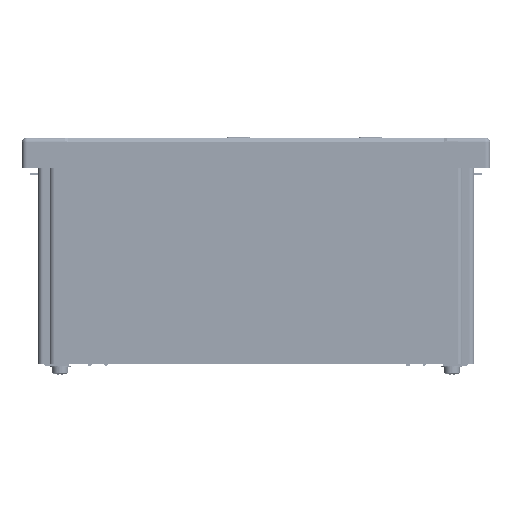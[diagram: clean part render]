
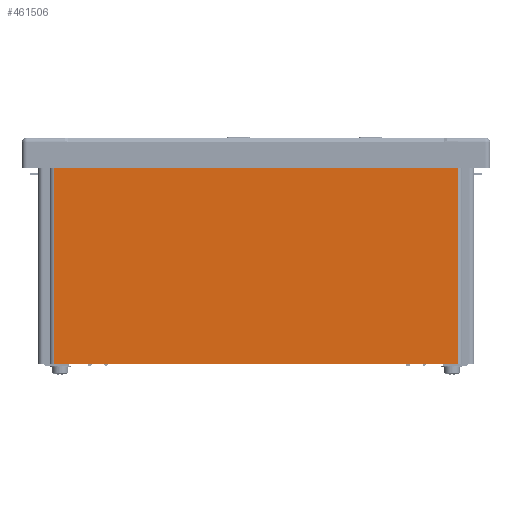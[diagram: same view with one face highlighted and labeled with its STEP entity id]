
A CAD part, left-side view. The second image highlights one B-rep face of the part: STEP entity #461506.
In plain terms, the highlighted planar face has unit normal (-1, 0, 0).
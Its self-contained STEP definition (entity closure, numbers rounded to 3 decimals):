
#6509 = CARTESIAN_POINT ( 'NONE',  ( -1902.227, 15.349, -316.035 ) ) ;
#11452 = DIRECTION ( 'NONE',  ( 0., 0., 1. ) ) ;
#13718 = EDGE_LOOP ( 'NONE', ( #355806, #453056, #322916, #193118 ) ) ;
#15104 = VECTOR ( 'NONE', #254033, 1000. ) ;
#20806 = CARTESIAN_POINT ( 'NONE',  ( -1902.227, -158.651, -143.744 ) ) ;
#22551 = VERTEX_POINT ( 'NONE', #324687 ) ;
#34629 = DIRECTION ( 'NONE',  ( 0., 0., -1. ) ) ;
#58878 = VERTEX_POINT ( 'NONE', #20806 ) ;
#71345 = EDGE_CURVE ( 'NONE', #22551, #58878, #328076, .T. ) ;
#122574 = PLANE ( 'NONE',  #333816 ) ;
#143991 = CARTESIAN_POINT ( 'NONE',  ( -1902.227, -71.651, -143.744 ) ) ;
#162892 = LINE ( 'NONE', #293745, #344921 ) ;
#178628 = EDGE_CURVE ( 'NONE', #456418, #58878, #162892, .T. ) ;
#187694 = CARTESIAN_POINT ( 'NONE',  ( -1902.227, -158.651, -59.244 ) ) ;
#191310 = LINE ( 'NONE', #6509, #310597 ) ;
#193118 = ORIENTED_EDGE ( 'NONE', *, *, #388152, .T. ) ;
#210019 = FACE_OUTER_BOUND ( 'NONE', #13718, .T. ) ;
#229446 = CARTESIAN_POINT ( 'NONE',  ( -1902.227, -157.651, -316.035 ) ) ;
#253927 = CARTESIAN_POINT ( 'NONE',  ( -1902.227, -157.651, -59.244 ) ) ;
#254033 = DIRECTION ( 'NONE',  ( 0., -1., 0. ) ) ;
#259467 = DIRECTION ( 'NONE',  ( 0., 0., -1. ) ) ;
#267559 = DIRECTION ( 'NONE',  ( -1., 0., 0. ) ) ;
#293745 = CARTESIAN_POINT ( 'NONE',  ( -1902.227, -158.651, -145.244 ) ) ;
#310597 = VECTOR ( 'NONE', #259467, 1000. ) ;
#322916 = ORIENTED_EDGE ( 'NONE', *, *, #433524, .T. ) ;
#324687 = CARTESIAN_POINT ( 'NONE',  ( -1902.227, 15.349, -143.744 ) ) ;
#328076 = LINE ( 'NONE', #143991, #15104 ) ;
#333816 = AXIS2_PLACEMENT_3D ( 'NONE', #229446, #267559, #11452 ) ;
#344921 = VECTOR ( 'NONE', #34629, 1000. ) ;
#355806 = ORIENTED_EDGE ( 'NONE', *, *, #71345, .T. ) ;
#388152 = EDGE_CURVE ( 'NONE', #454308, #22551, #191310, .T. ) ;
#396822 = DIRECTION ( 'NONE',  ( 0., 1., 0. ) ) ;
#399429 = LINE ( 'NONE', #253927, #445301 ) ;
#406709 = CARTESIAN_POINT ( 'NONE',  ( -1902.227, 15.349, -59.244 ) ) ;
#433524 = EDGE_CURVE ( 'NONE', #456418, #454308, #399429, .T. ) ;
#445301 = VECTOR ( 'NONE', #396822, 1000. ) ;
#453056 = ORIENTED_EDGE ( 'NONE', *, *, #178628, .F. ) ;
#454308 = VERTEX_POINT ( 'NONE', #406709 ) ;
#456418 = VERTEX_POINT ( 'NONE', #187694 ) ;
#461506 = ADVANCED_FACE ( 'NONE', ( #210019 ), #122574, .T. ) ;
